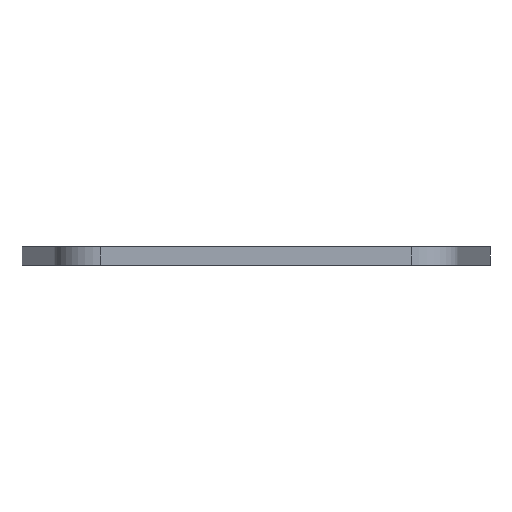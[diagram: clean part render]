
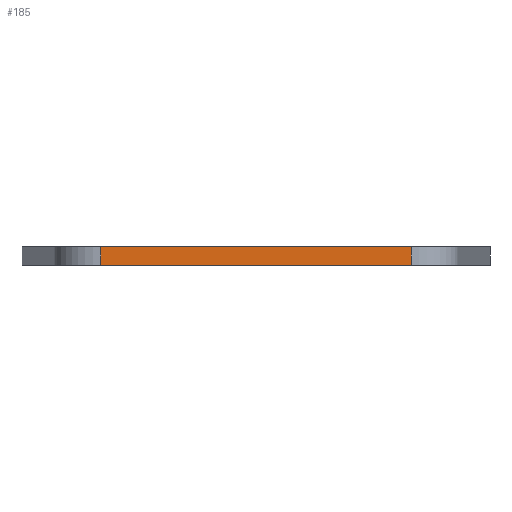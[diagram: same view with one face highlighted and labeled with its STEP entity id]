
A CAD part, front view. The second image highlights one B-rep face of the part: STEP entity #185.
In plain terms, the highlighted planar face has unit normal (0, -1, 0).
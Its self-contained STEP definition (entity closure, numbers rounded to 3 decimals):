
#125 = ORIENTED_EDGE ( 'NONE', *, *, #191, .T. ) ;
#150 = VERTEX_POINT ( 'NONE', #433 ) ;
#156 = ORIENTED_EDGE ( 'NONE', *, *, #956, .F. ) ;
#173 = ORIENTED_EDGE ( 'NONE', *, *, #975, .T. ) ;
#185 = ADVANCED_FACE ( 'NONE', ( #536 ), #527, .F. ) ;
#186 = EDGE_LOOP ( 'NONE', ( #156, #125, #173, #197 ) ) ;
#191 = EDGE_CURVE ( 'NONE', #935, #200, #569, .T. ) ;
#194 = EDGE_CURVE ( 'NONE', #150, #921, #565, .T. ) ;
#197 = ORIENTED_EDGE ( 'NONE', *, *, #194, .T. ) ;
#200 = VERTEX_POINT ( 'NONE', #544 ) ;
#262 = DIRECTION ( 'NONE',  ( 1., 0., 0. ) ) ;
#433 = CARTESIAN_POINT ( 'NONE',  ( 33.173, -180., 0. ) ) ;
#520 = DIRECTION ( 'NONE',  ( 0., 0., 1. ) ) ;
#521 = DIRECTION ( 'NONE',  ( 0., 1., 0. ) ) ;
#522 = CARTESIAN_POINT ( 'NONE',  ( 42.663, -180., 4. ) ) ;
#523 = AXIS2_PLACEMENT_3D ( 'NONE', #522, #521, #520 ) ;
#527 = PLANE ( 'NONE',  #523 ) ;
#536 = FACE_OUTER_BOUND ( 'NONE', #186, .T. ) ;
#544 = CARTESIAN_POINT ( 'NONE',  ( -33.173, -180., 0. ) ) ;
#548 = DIRECTION ( 'NONE',  ( 0., 0., 1. ) ) ;
#549 = VECTOR ( 'NONE', #548, 1000. ) ;
#562 = DIRECTION ( 'NONE',  ( 0., 0., -1. ) ) ;
#563 = VECTOR ( 'NONE', #562, 1000. ) ;
#564 = CARTESIAN_POINT ( 'NONE',  ( 33.173, -180., 4. ) ) ;
#565 = LINE ( 'NONE', #564, #549 ) ;
#568 = CARTESIAN_POINT ( 'NONE',  ( -33.173, -180., 4. ) ) ;
#569 = LINE ( 'NONE', #568, #563 ) ;
#705 = CARTESIAN_POINT ( 'NONE',  ( -33.173, -180., 4. ) ) ;
#708 = CARTESIAN_POINT ( 'NONE',  ( 33.173, -180., 4. ) ) ;
#734 = CARTESIAN_POINT ( 'NONE',  ( 42.663, -180., 4. ) ) ;
#735 = LINE ( 'NONE', #734, #919 ) ;
#785 = DIRECTION ( 'NONE',  ( 1., 0., 0. ) ) ;
#786 = VECTOR ( 'NONE', #785, 1000. ) ;
#787 = CARTESIAN_POINT ( 'NONE',  ( 42.663, -180., 0. ) ) ;
#788 = LINE ( 'NONE', #787, #786 ) ;
#919 = VECTOR ( 'NONE', #262, 1000. ) ;
#921 = VERTEX_POINT ( 'NONE', #708 ) ;
#935 = VERTEX_POINT ( 'NONE', #705 ) ;
#956 = EDGE_CURVE ( 'NONE', #935, #921, #735, .T. ) ;
#975 = EDGE_CURVE ( 'NONE', #200, #150, #788, .T. ) ;
